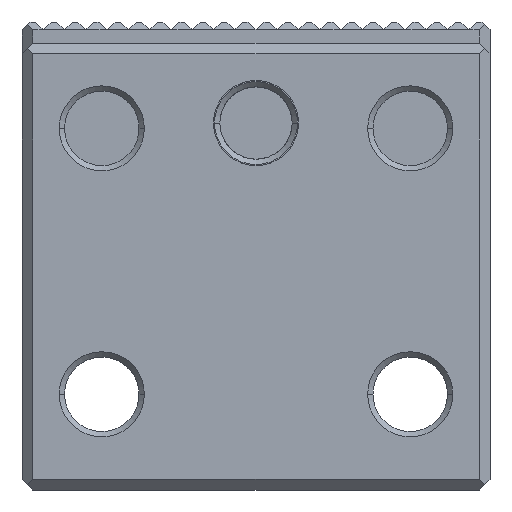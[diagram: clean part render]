
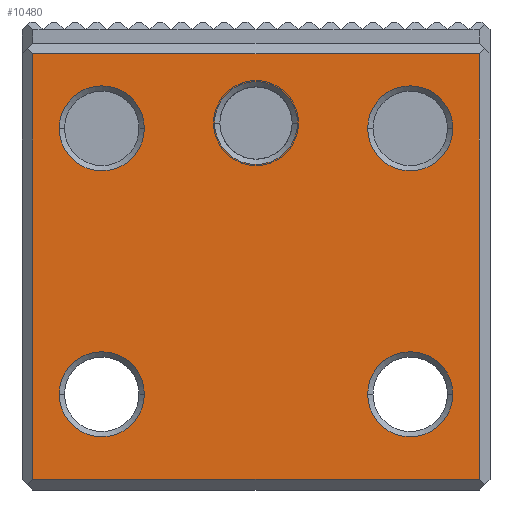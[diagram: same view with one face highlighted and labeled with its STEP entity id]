
A CAD part, front view. The second image highlights one B-rep face of the part: STEP entity #10480.
In plain terms, the highlighted planar face has unit normal (0, -1, 0).
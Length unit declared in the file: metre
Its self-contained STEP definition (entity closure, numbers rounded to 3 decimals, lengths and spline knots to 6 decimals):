
#1=CARTESIAN_POINT('',(-0.0145,0.,-0.012));
#2=DIRECTION('',(0.,1.,0.));
#3=DIRECTION('',(-1.,0.,0.));
#4=AXIS2_PLACEMENT_3D('',#1,#2,#3);
#6=CARTESIAN_POINT('',(-0.0145,0.,-0.012));
#7=DIRECTION('',(0.,1.,0.));
#8=DIRECTION('',(0.,0.,-1.));
#9=AXIS2_PLACEMENT_3D('',#6,#7,#8);
#11=CARTESIAN_POINT('',(-0.0145,0.,-0.012));
#12=DIRECTION('',(0.,1.,0.));
#13=DIRECTION('',(1.,0.,0.));
#14=AXIS2_PLACEMENT_3D('',#11,#12,#13);
#16=CARTESIAN_POINT('',(-0.0145,0.,-0.012));
#17=DIRECTION('',(0.,1.,0.));
#18=DIRECTION('',(0.,0.,1.));
#19=AXIS2_PLACEMENT_3D('',#16,#17,#18);
#21=CARTESIAN_POINT('',(-0.0145,0.,0.013));
#22=DIRECTION('',(0.,1.,0.));
#23=DIRECTION('',(1.,0.,0.));
#24=AXIS2_PLACEMENT_3D('',#21,#22,#23);
#26=CARTESIAN_POINT('',(-0.0145,0.,0.013));
#27=DIRECTION('',(0.,1.,0.));
#28=DIRECTION('',(0.,0.,1.));
#29=AXIS2_PLACEMENT_3D('',#26,#27,#28);
#31=CARTESIAN_POINT('',(-0.0145,0.,0.013));
#32=DIRECTION('',(0.,1.,0.));
#33=DIRECTION('',(-1.,0.,0.));
#34=AXIS2_PLACEMENT_3D('',#31,#32,#33);
#36=CARTESIAN_POINT('',(-0.0145,0.,0.013));
#37=DIRECTION('',(0.,1.,0.));
#38=DIRECTION('',(0.,0.,-1.));
#39=AXIS2_PLACEMENT_3D('',#36,#37,#38);
#41=CARTESIAN_POINT('',(0.0145,0.,-0.012));
#42=DIRECTION('',(0.,1.,0.));
#43=DIRECTION('',(-1.,0.,0.));
#44=AXIS2_PLACEMENT_3D('',#41,#42,#43);
#46=CARTESIAN_POINT('',(0.0145,0.,-0.012));
#47=DIRECTION('',(0.,1.,0.));
#48=DIRECTION('',(0.,0.,-1.));
#49=AXIS2_PLACEMENT_3D('',#46,#47,#48);
#51=CARTESIAN_POINT('',(0.0145,0.,-0.012));
#52=DIRECTION('',(0.,1.,0.));
#53=DIRECTION('',(1.,0.,0.));
#54=AXIS2_PLACEMENT_3D('',#51,#52,#53);
#56=CARTESIAN_POINT('',(0.0145,0.,-0.012));
#57=DIRECTION('',(0.,1.,0.));
#58=DIRECTION('',(0.,0.,1.));
#59=AXIS2_PLACEMENT_3D('',#56,#57,#58);
#61=CARTESIAN_POINT('',(0.0145,0.,0.013));
#62=DIRECTION('',(0.,1.,0.));
#63=DIRECTION('',(-1.,0.,0.));
#64=AXIS2_PLACEMENT_3D('',#61,#62,#63);
#66=CARTESIAN_POINT('',(0.0145,0.,0.013));
#67=DIRECTION('',(0.,1.,0.));
#68=DIRECTION('',(0.,0.,-1.));
#69=AXIS2_PLACEMENT_3D('',#66,#67,#68);
#71=CARTESIAN_POINT('',(0.0145,0.,0.013));
#72=DIRECTION('',(0.,1.,0.));
#73=DIRECTION('',(1.,0.,0.));
#74=AXIS2_PLACEMENT_3D('',#71,#72,#73);
#76=CARTESIAN_POINT('',(0.0145,0.,0.013));
#77=DIRECTION('',(0.,1.,0.));
#78=DIRECTION('',(0.,0.,1.));
#79=AXIS2_PLACEMENT_3D('',#76,#77,#78);
#81=CARTESIAN_POINT('',(0.,0.,0.0135));
#82=DIRECTION('',(0.,1.,0.));
#83=DIRECTION('',(-1.,0.,0.));
#84=AXIS2_PLACEMENT_3D('',#81,#82,#83);
#86=CARTESIAN_POINT('',(0.,0.,0.0135));
#87=DIRECTION('',(0.,1.,0.));
#88=DIRECTION('',(0.,0.,-1.));
#89=AXIS2_PLACEMENT_3D('',#86,#87,#88);
#91=CARTESIAN_POINT('',(0.,0.,0.0135));
#92=DIRECTION('',(0.,1.,0.));
#93=DIRECTION('',(1.,0.,0.));
#94=AXIS2_PLACEMENT_3D('',#91,#92,#93);
#96=CARTESIAN_POINT('',(0.,0.,0.0135));
#97=DIRECTION('',(0.,1.,0.));
#98=DIRECTION('',(0.,0.,1.));
#99=AXIS2_PLACEMENT_3D('',#96,#97,#98);
#8024=DIRECTION('',(1.,0.,0.));
#8025=VECTOR('',#8024,0.042);
#8026=CARTESIAN_POINT('',(-0.021,0.,0.02));
#8027=LINE('',#8026,#8025);
#8048=DIRECTION('',(0.,0.,-1.));
#8049=VECTOR('',#8048,0.04);
#8050=CARTESIAN_POINT('',(0.021,0.,0.02));
#8051=LINE('',#8050,#8049);
#8056=DIRECTION('',(-1.,0.,0.));
#8057=VECTOR('',#8056,0.042);
#8058=CARTESIAN_POINT('',(0.021,0.,-0.02));
#8059=LINE('',#8058,#8057);
#8080=DIRECTION('',(0.,0.,1.));
#8081=VECTOR('',#8080,0.04);
#8082=CARTESIAN_POINT('',(-0.021,0.,-0.02));
#8083=LINE('',#8082,#8081);
#8237=CARTESIAN_POINT('',(0.021,0.,0.02));
#8238=CARTESIAN_POINT('',(0.021,0.,-0.02));
#8239=VERTEX_POINT('',#8237);
#8240=VERTEX_POINT('',#8238);
#8241=CARTESIAN_POINT('',(-0.021,0.,-0.02));
#8242=VERTEX_POINT('',#8241);
#8243=CARTESIAN_POINT('',(-0.021,0.,0.02));
#8244=VERTEX_POINT('',#8243);
#8245=CARTESIAN_POINT('',(0.0039,0.,0.0135));
#8246=CARTESIAN_POINT('',(0.,0.,0.0096));
#8247=VERTEX_POINT('',#8245);
#8248=VERTEX_POINT('',#8246);
#8249=CARTESIAN_POINT('',(-0.0039,0.,0.0135));
#8250=VERTEX_POINT('',#8249);
#8251=CARTESIAN_POINT('',(0.,0.,0.0174));
#8252=VERTEX_POINT('',#8251);
#8253=CARTESIAN_POINT('',(0.0185,0.,0.013));
#8254=CARTESIAN_POINT('',(0.0145,0.,0.009));
#8255=VERTEX_POINT('',#8253);
#8256=VERTEX_POINT('',#8254);
#8257=CARTESIAN_POINT('',(0.0105,0.,0.013));
#8258=VERTEX_POINT('',#8257);
#8259=CARTESIAN_POINT('',(0.0145,0.,0.017));
#8260=VERTEX_POINT('',#8259);
#8261=CARTESIAN_POINT('',(0.0185,0.,-0.012));
#8262=CARTESIAN_POINT('',(0.0145,0.,-0.016));
#8263=VERTEX_POINT('',#8261);
#8264=VERTEX_POINT('',#8262);
#8265=CARTESIAN_POINT('',(0.0105,0.,-0.012));
#8266=VERTEX_POINT('',#8265);
#8267=CARTESIAN_POINT('',(0.0145,0.,-0.008));
#8268=VERTEX_POINT('',#8267);
#8269=CARTESIAN_POINT('',(-0.0185,0.,0.013));
#8270=CARTESIAN_POINT('',(-0.0145,0.,0.017));
#8271=VERTEX_POINT('',#8269);
#8272=VERTEX_POINT('',#8270);
#8273=CARTESIAN_POINT('',(-0.0105,0.,0.013));
#8274=VERTEX_POINT('',#8273);
#8275=CARTESIAN_POINT('',(-0.0145,0.,0.009));
#8276=VERTEX_POINT('',#8275);
#8277=CARTESIAN_POINT('',(-0.0105,0.,-0.012));
#8278=CARTESIAN_POINT('',(-0.0145,0.,-0.016));
#8279=VERTEX_POINT('',#8277);
#8280=VERTEX_POINT('',#8278);
#8281=CARTESIAN_POINT('',(-0.0185,0.,-0.012));
#8282=VERTEX_POINT('',#8281);
#8283=CARTESIAN_POINT('',(-0.0145,0.,-0.008));
#8284=VERTEX_POINT('',#8283);
#10415=CARTESIAN_POINT('',(0.,0.,0.));
#10416=DIRECTION('',(0.,1.,0.));
#10417=DIRECTION('',(1.,0.,0.));
#10418=AXIS2_PLACEMENT_3D('',#10415,#10416,#10417);
#10419=PLANE('',#10418);
#10421=ORIENTED_EDGE('',*,*,#10420,.T.);
#10423=ORIENTED_EDGE('',*,*,#10422,.T.);
#10425=ORIENTED_EDGE('',*,*,#10424,.T.);
#10427=ORIENTED_EDGE('',*,*,#10426,.T.);
#10428=EDGE_LOOP('',(#10421,#10423,#10425,#10427));
#10429=FACE_OUTER_BOUND('',#10428,.F.);
#10431=ORIENTED_EDGE('',*,*,#10430,.F.);
#10433=ORIENTED_EDGE('',*,*,#10432,.F.);
#10435=ORIENTED_EDGE('',*,*,#10434,.F.);
#10437=ORIENTED_EDGE('',*,*,#10436,.F.);
#10438=EDGE_LOOP('',(#10431,#10433,#10435,#10437));
#10439=FACE_BOUND('',#10438,.F.);
#10441=ORIENTED_EDGE('',*,*,#10440,.F.);
#10443=ORIENTED_EDGE('',*,*,#10442,.F.);
#10445=ORIENTED_EDGE('',*,*,#10444,.F.);
#10447=ORIENTED_EDGE('',*,*,#10446,.F.);
#10448=EDGE_LOOP('',(#10441,#10443,#10445,#10447));
#10449=FACE_BOUND('',#10448,.F.);
#10451=ORIENTED_EDGE('',*,*,#10450,.F.);
#10453=ORIENTED_EDGE('',*,*,#10452,.F.);
#10455=ORIENTED_EDGE('',*,*,#10454,.F.);
#10457=ORIENTED_EDGE('',*,*,#10456,.F.);
#10458=EDGE_LOOP('',(#10451,#10453,#10455,#10457));
#10459=FACE_BOUND('',#10458,.F.);
#10461=ORIENTED_EDGE('',*,*,#10460,.F.);
#10463=ORIENTED_EDGE('',*,*,#10462,.F.);
#10465=ORIENTED_EDGE('',*,*,#10464,.F.);
#10467=ORIENTED_EDGE('',*,*,#10466,.F.);
#10468=EDGE_LOOP('',(#10461,#10463,#10465,#10467));
#10469=FACE_BOUND('',#10468,.F.);
#10471=ORIENTED_EDGE('',*,*,#10470,.F.);
#10473=ORIENTED_EDGE('',*,*,#10472,.F.);
#10475=ORIENTED_EDGE('',*,*,#10474,.F.);
#10477=ORIENTED_EDGE('',*,*,#10476,.F.);
#10478=EDGE_LOOP('',(#10471,#10473,#10475,#10477));
#10479=FACE_BOUND('',#10478,.F.);
#10480=ADVANCED_FACE('',(#10429,#10439,#10449,#10459,#10469,#10479),#10419,.F.);
#5=CIRCLE('',#4,0.004);
#10=CIRCLE('',#9,0.004);
#15=CIRCLE('',#14,0.004);
#20=CIRCLE('',#19,0.004);
#25=CIRCLE('',#24,0.004);
#30=CIRCLE('',#29,0.004);
#35=CIRCLE('',#34,0.004);
#40=CIRCLE('',#39,0.004);
#45=CIRCLE('',#44,0.004);
#50=CIRCLE('',#49,0.004);
#55=CIRCLE('',#54,0.004);
#60=CIRCLE('',#59,0.004);
#65=CIRCLE('',#64,0.004);
#70=CIRCLE('',#69,0.004);
#75=CIRCLE('',#74,0.004);
#80=CIRCLE('',#79,0.004);
#85=CIRCLE('',#84,0.0039);
#90=CIRCLE('',#89,0.0039);
#95=CIRCLE('',#94,0.0039);
#100=CIRCLE('',#99,0.0039);
#10420=EDGE_CURVE('',#8244,#8239,#8027,.T.);
#10422=EDGE_CURVE('',#8239,#8240,#8051,.T.);
#10424=EDGE_CURVE('',#8240,#8242,#8059,.T.);
#10426=EDGE_CURVE('',#8242,#8244,#8083,.T.);
#10430=EDGE_CURVE('',#8274,#8276,#25,.T.);
#10432=EDGE_CURVE('',#8272,#8274,#30,.T.);
#10434=EDGE_CURVE('',#8271,#8272,#35,.T.);
#10436=EDGE_CURVE('',#8276,#8271,#40,.T.);
#10440=EDGE_CURVE('',#8266,#8268,#45,.T.);
#10442=EDGE_CURVE('',#8264,#8266,#50,.T.);
#10444=EDGE_CURVE('',#8263,#8264,#55,.T.);
#10446=EDGE_CURVE('',#8268,#8263,#60,.T.);
#10450=EDGE_CURVE('',#8258,#8260,#65,.T.);
#10452=EDGE_CURVE('',#8256,#8258,#70,.T.);
#10454=EDGE_CURVE('',#8255,#8256,#75,.T.);
#10456=EDGE_CURVE('',#8260,#8255,#80,.T.);
#10460=EDGE_CURVE('',#8250,#8252,#85,.T.);
#10462=EDGE_CURVE('',#8248,#8250,#90,.T.);
#10464=EDGE_CURVE('',#8247,#8248,#95,.T.);
#10466=EDGE_CURVE('',#8252,#8247,#100,.T.);
#10470=EDGE_CURVE('',#8282,#8284,#5,.T.);
#10472=EDGE_CURVE('',#8280,#8282,#10,.T.);
#10474=EDGE_CURVE('',#8279,#8280,#15,.T.);
#10476=EDGE_CURVE('',#8284,#8279,#20,.T.);
